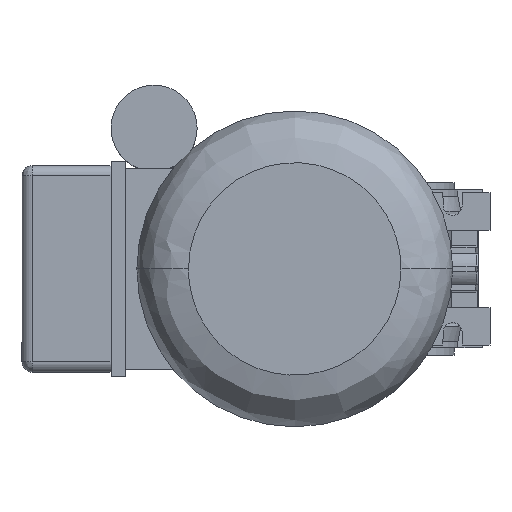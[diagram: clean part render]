
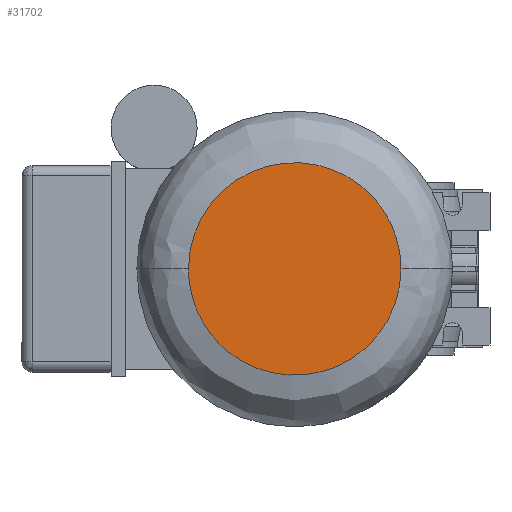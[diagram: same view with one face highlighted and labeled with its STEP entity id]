
A CAD part, left-side view. The second image highlights one B-rep face of the part: STEP entity #31702.
In plain terms, the highlighted planar face has unit normal (-1, 0, 0) as drawn and (0, 0, -1) by its records, which use the part's own axes.
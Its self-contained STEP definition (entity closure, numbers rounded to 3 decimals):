
#2444 = CARTESIAN_POINT ( 'NONE',  ( 74., -37., -146. ) ) ;
#3181 = VERTEX_POINT ( 'NONE', #4821 ) ;
#4821 = CARTESIAN_POINT ( 'NONE',  ( 0., -37., -146. ) ) ;
#8063 = CARTESIAN_POINT ( 'NONE',  ( -74., -37., -146. ) ) ;
#8609 = AXIS2_PLACEMENT_3D ( 'NONE', #16941, #19110, #16508 ) ;
#12967 = FACE_OUTER_BOUND ( 'NONE', #14817, .T. ) ;
#13374 = ORIENTED_EDGE ( 'NONE', *, *, #15443, .F. ) ;
#14140 = PLANE ( 'NONE',  #8609 ) ;
#14817 = EDGE_LOOP ( 'NONE', ( #30064, #13374 ) ) ;
#15002 = CARTESIAN_POINT ( 'NONE',  ( -74., 37., -146. ) ) ;
#15443 = EDGE_CURVE ( 'NONE', #3181, #21302, #19168, .T. ) ;
#16508 = DIRECTION ( 'NONE',  ( 0., 1., 0. ) ) ;
#16941 = CARTESIAN_POINT ( 'NONE',  ( 0., 0., -146. ) ) ;
#17096 = CARTESIAN_POINT ( 'NONE',  ( 0., -37., -146. ) ) ;
#19110 = DIRECTION ( 'NONE',  ( 0., 0., -1. ) ) ;
#19168 =( BOUNDED_CURVE ( )  B_SPLINE_CURVE ( 3, ( #17096, #2444, #24509, #27285 ),
 .UNSPECIFIED., .F., .F. ) 
 B_SPLINE_CURVE_WITH_KNOTS ( ( 4, 4 ),
 ( 0.5, 1. ),
 .UNSPECIFIED. ) 
 CURVE ( )  GEOMETRIC_REPRESENTATION_ITEM ( )  RATIONAL_B_SPLINE_CURVE ( ( 1., 0.333, 0.333, 1. ) ) 
 REPRESENTATION_ITEM ( '' )  );
#21302 = VERTEX_POINT ( 'NONE', #21869 ) ;
#21869 = CARTESIAN_POINT ( 'NONE',  ( 0., 37., -146. ) ) ;
#22215 =( BOUNDED_CURVE ( )  B_SPLINE_CURVE ( 3, ( #29712, #15002, #8063, #30338 ),
 .UNSPECIFIED., .F., .F. ) 
 B_SPLINE_CURVE_WITH_KNOTS ( ( 4, 4 ),
 ( 0., 0.5 ),
 .UNSPECIFIED. ) 
 CURVE ( )  GEOMETRIC_REPRESENTATION_ITEM ( )  RATIONAL_B_SPLINE_CURVE ( ( 1., 0.333, 0.333, 1. ) ) 
 REPRESENTATION_ITEM ( '' )  );
#24509 = CARTESIAN_POINT ( 'NONE',  ( 74., 37., -146. ) ) ;
#27285 = CARTESIAN_POINT ( 'NONE',  ( 0., 37., -146. ) ) ;
#29328 = EDGE_CURVE ( 'NONE', #21302, #3181, #22215, .T. ) ;
#29712 = CARTESIAN_POINT ( 'NONE',  ( 0., 37., -146. ) ) ;
#30064 = ORIENTED_EDGE ( 'NONE', *, *, #29328, .F. ) ;
#30338 = CARTESIAN_POINT ( 'NONE',  ( 0., -37., -146. ) ) ;
#31702 = ADVANCED_FACE ( 'NONE', ( #12967 ), #14140, .T. ) ;
